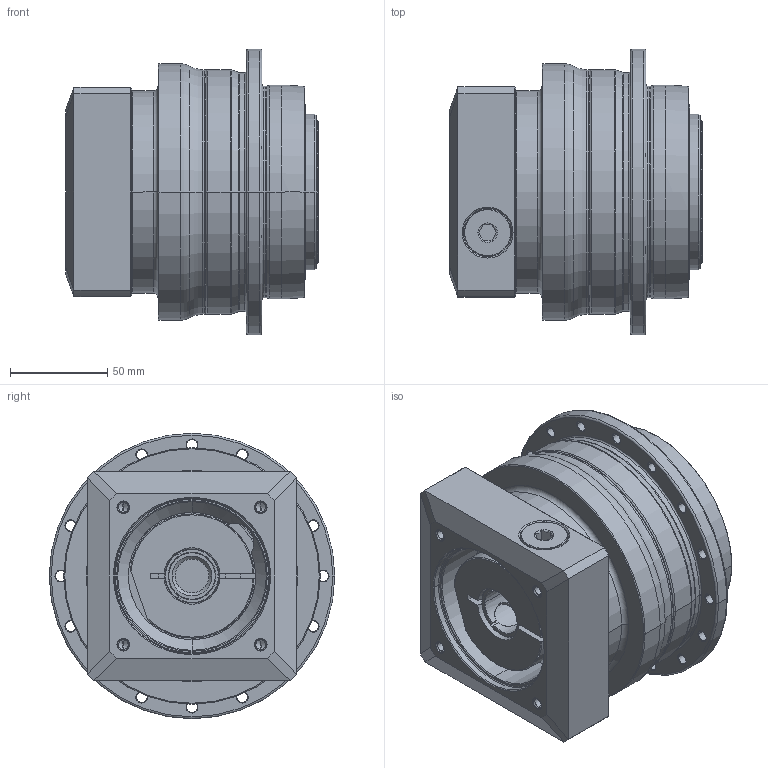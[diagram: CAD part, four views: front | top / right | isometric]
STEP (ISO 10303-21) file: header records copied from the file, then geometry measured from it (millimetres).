
FILE_DESCRIPTION((''),'2;1');
FILE_NAME('AP110_1ST_24-P0409510201_ASM','2018-05-21T',('d01226'),(''),'PRO/ENGINEER BY PARAMETRIC TECHNOLOGY CORPORATION, 2008410','PRO/ENGINEER BY PARAMETRIC TECHNOLOGY CORPORATION, 2008410','');
FILE_SCHEMA(('CONFIG_CONTROL_DESIGN'));
Length unit declared in the file: millimetre
Products named in the file (9): P0278401003; P0359401103; P1318410101; P0503500010; P0912451001; P1211400002; P0409510201; 21711418017; AP110_1ST_24-P0409510201_ASM
Assembly tree (8 placements, depth 2):
  AP110_1ST_24-P0409510201_ASM
    P0278401003
    P0359401103
    P1318410101
    P0503500010
    P0912451001
    P1211400002
    P0409510201
    21711418017
Bounding box: 130 x 147 x 147 mm (x, y, z)
Volume: 1185226.3 mm3; surface area: 208890.2 mm2
Topology: 9 solids, 30 shells, 559 faces, 1300 edges, 802 vertices
Faces by surface type: cylinder 231, cone 145, plane 99, torus 70, bspline 14
Entity records: 21231 total; most frequent: CARTESIAN_POINT 7806, DIRECTION 3073, ORIENTED_EDGE 2498, AXIS2_PLACEMENT_3D 1316, EDGE_CURVE 1292, VERTEX_POINT 802, CIRCLE 744, EDGE_LOOP 684
